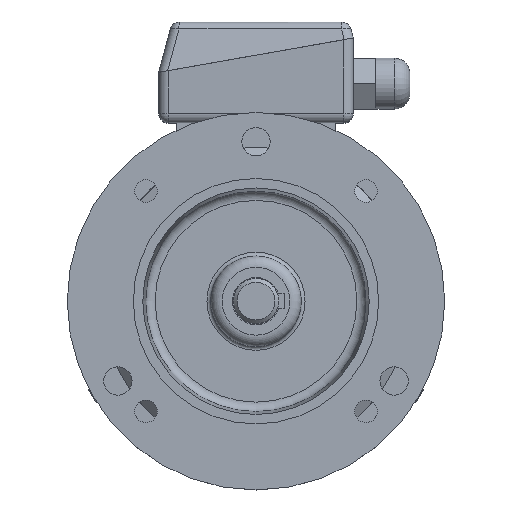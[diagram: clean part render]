
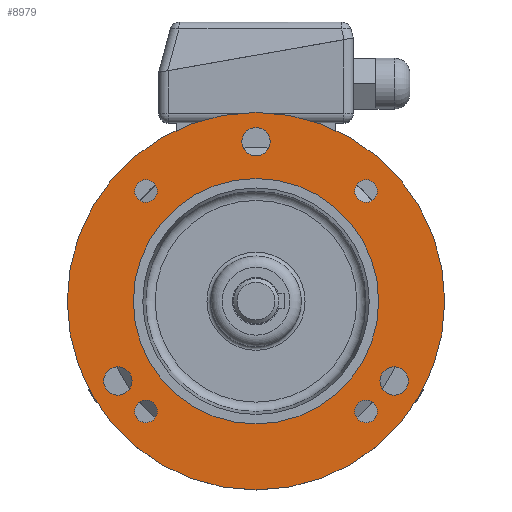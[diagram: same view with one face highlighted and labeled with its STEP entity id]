
A CAD part, top view. The second image highlights one B-rep face of the part: STEP entity #8979.
In plain terms, the highlighted planar face has unit normal (0, 0, 1).
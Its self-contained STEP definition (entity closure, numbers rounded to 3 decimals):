
#4553=ORIENTED_EDGE('',*,*,#5858,.F.);
#4554=ORIENTED_EDGE('',*,*,#5850,.T.);
#4555=ORIENTED_EDGE('',*,*,#5853,.F.);
#4556=ORIENTED_EDGE('',*,*,#5864,.F.);
#4557=ORIENTED_EDGE('',*,*,#5866,.F.);
#4558=ORIENTED_EDGE('',*,*,#5862,.F.);
#4559=ORIENTED_EDGE('',*,*,#5855,.F.);
#4560=ORIENTED_EDGE('',*,*,#5859,.F.);
#4561=ORIENTED_EDGE('',*,*,#5851,.F.);
#5850=EDGE_CURVE('',#6694,#6694,#7036,.T.);
#5851=EDGE_CURVE('',#6695,#6695,#7037,.T.);
#5853=EDGE_CURVE('',#6697,#6697,#7039,.T.);
#5855=EDGE_CURVE('',#6699,#6699,#7041,.T.);
#5858=EDGE_CURVE('',#6702,#6702,#7044,.T.);
#5859=EDGE_CURVE('',#6703,#6703,#7045,.T.);
#5862=EDGE_CURVE('',#6706,#6706,#7048,.T.);
#5864=EDGE_CURVE('',#6708,#6708,#7050,.T.);
#5866=EDGE_CURVE('',#6710,#6710,#7052,.T.);
#6694=VERTEX_POINT('',#19027);
#6695=VERTEX_POINT('',#19030);
#6697=VERTEX_POINT('',#19035);
#6699=VERTEX_POINT('',#19040);
#6702=VERTEX_POINT('',#19047);
#6703=VERTEX_POINT('',#19050);
#6706=VERTEX_POINT('',#19058);
#6708=VERTEX_POINT('',#19063);
#6710=VERTEX_POINT('',#19068);
#7036=CIRCLE('',#9741,65.);
#7037=CIRCLE('',#9743,7.5);
#7039=CIRCLE('',#9746,6.);
#7041=CIRCLE('',#9749,7.5);
#7044=CIRCLE('',#9753,100.);
#7045=CIRCLE('',#9755,7.5);
#7048=CIRCLE('',#9760,6.);
#7050=CIRCLE('',#9763,6.);
#7052=CIRCLE('',#9766,6.);
#7609=EDGE_LOOP('',(#4553));
#7610=EDGE_LOOP('',(#4554));
#7611=EDGE_LOOP('',(#4555));
#7612=EDGE_LOOP('',(#4556));
#7613=EDGE_LOOP('',(#4557));
#7614=EDGE_LOOP('',(#4558));
#7615=EDGE_LOOP('',(#4559));
#7616=EDGE_LOOP('',(#4560));
#7617=EDGE_LOOP('',(#4561));
#8184=FACE_BOUND('',#7609,.T.);
#8185=FACE_BOUND('',#7610,.T.);
#8186=FACE_BOUND('',#7611,.T.);
#8187=FACE_BOUND('',#7612,.T.);
#8188=FACE_BOUND('',#7613,.T.);
#8189=FACE_BOUND('',#7614,.T.);
#8190=FACE_BOUND('',#7615,.T.);
#8191=FACE_BOUND('',#7616,.T.);
#8192=FACE_BOUND('',#7617,.T.);
#8477=PLANE('',#9765);
#8979=ADVANCED_FACE('',(#8184,#8185,#8186,#8187,#8188,#8189,#8190,#8191,
#8192),#8477,.T.);
#9741=AXIS2_PLACEMENT_3D('',#19026,#12046,#12047);
#9743=AXIS2_PLACEMENT_3D('',#19029,#12050,#12051);
#9746=AXIS2_PLACEMENT_3D('',#19034,#12056,#12057);
#9749=AXIS2_PLACEMENT_3D('',#19039,#12062,#12063);
#9753=AXIS2_PLACEMENT_3D('',#19046,#12070,#12071);
#9755=AXIS2_PLACEMENT_3D('',#19049,#12074,#12075);
#9760=AXIS2_PLACEMENT_3D('',#19057,#12084,#12085);
#9763=AXIS2_PLACEMENT_3D('',#19062,#12090,#12091);
#9765=AXIS2_PLACEMENT_3D('',#19066,#12094,#12095);
#9766=AXIS2_PLACEMENT_3D('',#19067,#12096,#12097);
#12046=DIRECTION('',(0.,0.,-1.));
#12047=DIRECTION('',(-1.,0.,0.));
#12050=DIRECTION('',(0.,0.,1.));
#12051=DIRECTION('',(1.,0.,0.));
#12056=DIRECTION('',(0.,0.,1.));
#12057=DIRECTION('',(1.,0.,0.));
#12062=DIRECTION('',(0.,0.,1.));
#12063=DIRECTION('',(1.,0.,0.));
#12070=DIRECTION('',(0.,0.,-1.));
#12071=DIRECTION('',(-1.,0.,0.));
#12074=DIRECTION('',(0.,0.,1.));
#12075=DIRECTION('',(1.,0.,0.));
#12084=DIRECTION('',(0.,0.,1.));
#12085=DIRECTION('',(1.,0.,0.));
#12090=DIRECTION('',(0.,0.,1.));
#12091=DIRECTION('',(1.,0.,0.));
#12094=DIRECTION('',(0.,0.,1.));
#12095=DIRECTION('',(1.,0.,0.));
#12096=DIRECTION('',(0.,0.,1.));
#12097=DIRECTION('',(1.,0.,0.));
#19026=CARTESIAN_POINT('',(0.,0.,40.));
#19027=CARTESIAN_POINT('',(-65.,0.,40.));
#19029=CARTESIAN_POINT('',(-73.179,-42.25,40.));
#19030=CARTESIAN_POINT('',(-65.679,-42.25,40.));
#19034=CARTESIAN_POINT('',(58.336,58.336,40.));
#19035=CARTESIAN_POINT('',(64.336,58.336,40.));
#19039=CARTESIAN_POINT('',(0.,84.5,40.));
#19040=CARTESIAN_POINT('',(7.5,84.5,40.));
#19046=CARTESIAN_POINT('',(0.,0.,40.));
#19047=CARTESIAN_POINT('',(-100.,0.,40.));
#19049=CARTESIAN_POINT('',(73.179,-42.25,40.));
#19050=CARTESIAN_POINT('',(80.679,-42.25,40.));
#19057=CARTESIAN_POINT('',(-58.336,58.336,40.));
#19058=CARTESIAN_POINT('',(-52.336,58.336,40.));
#19062=CARTESIAN_POINT('',(58.336,-58.336,40.));
#19063=CARTESIAN_POINT('',(64.336,-58.336,40.));
#19066=CARTESIAN_POINT('',(-100.,0.,40.));
#19067=CARTESIAN_POINT('',(-58.336,-58.336,40.));
#19068=CARTESIAN_POINT('',(-52.336,-58.336,40.));
